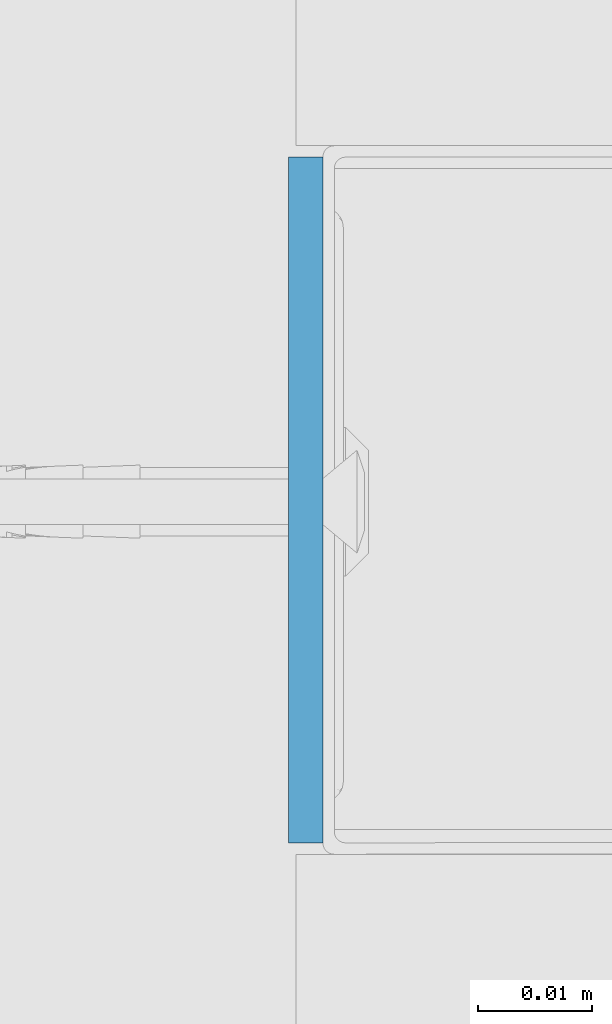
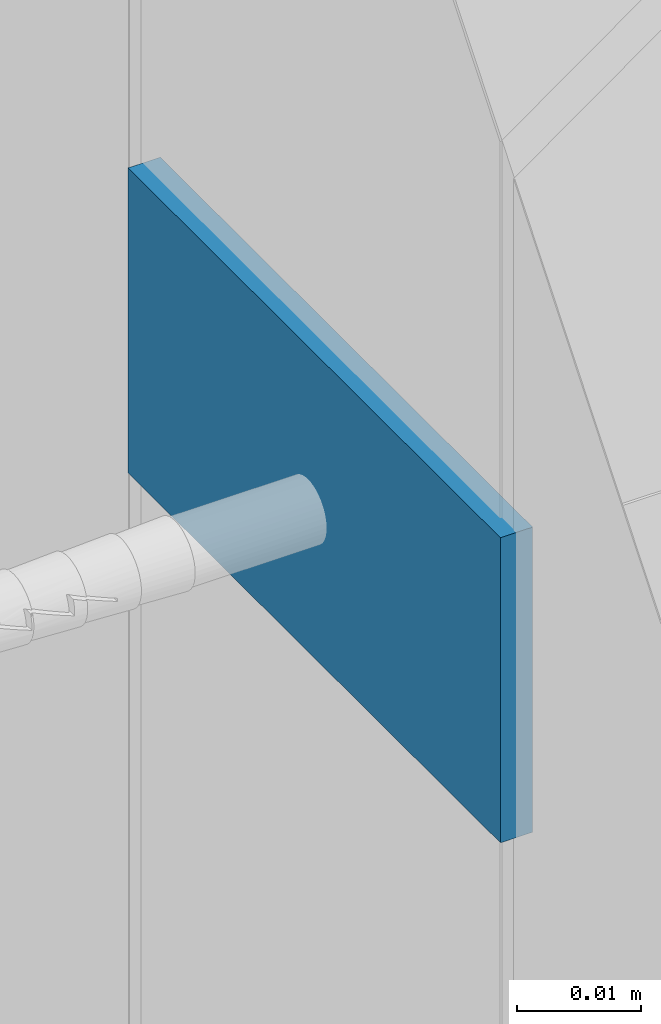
# One storey, part 31 of 67: 1 wall.
"""IFC2X3 building model written with IfcOpenShell, lengths in millimetres."""

from ifc_helpers import new_model, si_unit, frame, origin_with_axes, place, context, subcontext, project, spatial, faceted_brep, material, type_object, element, save


model = new_model("IFC2X3")

# Units and contexts
model_context = context("Model", 3, world=origin_with_axes())
body_context = subcontext(model_context, "Body", "Model", "MODEL_VIEW")
ifc_project = project(units=[si_unit("LENGTHUNIT", "METRE", prefix="MILLI"), si_unit("AREAUNIT", "SQUARE_METRE"), si_unit("VOLUMEUNIT", "CUBIC_METRE")], contexts=[model_context])

# Site, building, storey
site_placement = place(None, frame((2152.14102611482, 674.9749105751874, 57.61556563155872), z_axis=(0.0, 0.0, 1.0), x_axis=(-1.1102230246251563e-16, 1.0, 0.0)))
site = spatial("IfcSite", under=ifc_project, at=site_placement, Name="Default Site", CompositionType="ELEMENT")
building_placement = place(site_placement, origin_with_axes())
building = spatial("IfcBuilding", under=site, at=building_placement, Name="Default Building", CompositionType="ELEMENT")
storey_placement = place(building_placement, origin_with_axes())
storey = spatial("IfcBuildingStorey", under=building, at=storey_placement, Name="Default Building Storey", CompositionType="ELEMENT", Elevation=57.61556563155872)

# Wall
ifc_material = material(Name="Default")
wall_type = type_object("IfcWallType", Name="Taśma uszczelniająca piankowa RIGIPS szer.30mm#9", PredefinedType="NOTDEFINED")
wall_placement = place(storey_placement, frame((2808.0370864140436, 2019.778611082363, 1278.8496604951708), z_axis=(0.0, 0.0, 1.0), x_axis=(1.0, 0.0, 0.0)))
element("IfcWall", 1, at=wall_placement, inside=storey, type_object=wall_type, material=ifc_material, Name="Taśma uszczelniająca piankowa RIGIPS szer.30mm", context=body_context, shape_type="Brep", body=[
    faceted_brep([(59.99999865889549, 0.0, 4.511946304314e-12), (0.0, 0.0, 0.0), (1.0828671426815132e-12, -2.2379254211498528e-11, -29.999999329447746), (59.99999865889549, -2.2379254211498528e-11, -29.999999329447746), (0.0, 3.000000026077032, 0.0), (1.0828671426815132e-12, 3.000000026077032, -29.999999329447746), (59.99999865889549, 3.000000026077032, 0.0), (59.99999865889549, 3.000000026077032, -29.999999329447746)], [[[0, 1, 2, 3]], [[1, 4, 5, 2]], [[4, 6, 7, 5]], [[6, 0, 3, 7]], [[7, 3, 2, 5]], [[0, 6, 4, 1]]]),
])

save(model, "model.ifc")
